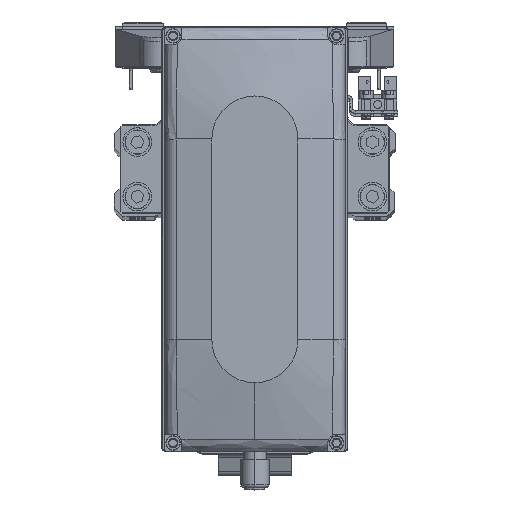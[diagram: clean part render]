
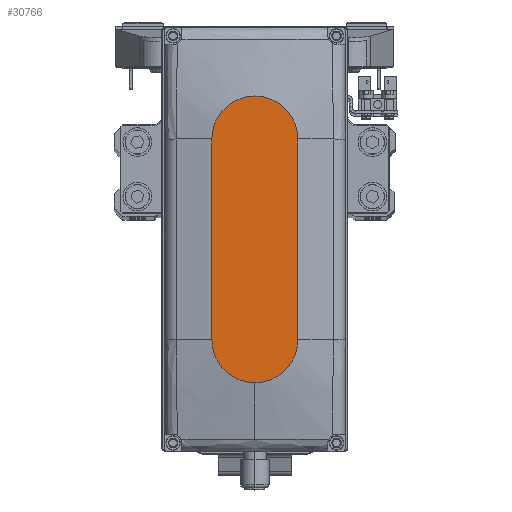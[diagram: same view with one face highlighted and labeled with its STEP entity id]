
A CAD part, top view. The second image highlights one B-rep face of the part: STEP entity #30766.
In plain terms, the highlighted planar face has unit normal (0, 0, 1).
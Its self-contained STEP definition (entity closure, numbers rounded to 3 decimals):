
#3246 = EDGE_CURVE ( 'NONE', #27830, #14980, #12719, .T. ) ;
#3724 = CARTESIAN_POINT ( 'NONE',  ( 0., 0., 35. ) ) ;
#4434 = DIRECTION ( 'NONE',  ( 1., 0., 0. ) ) ;
#4995 = ORIENTED_EDGE ( 'NONE', *, *, #6561, .T. ) ;
#6561 = EDGE_CURVE ( 'NONE', #18724, #30098, #22208, .T. ) ;
#7403 = EDGE_CURVE ( 'NONE', #14980, #18724, #44676, .T. ) ;
#7783 = DIRECTION ( 'NONE',  ( 0., 0., 1. ) ) ;
#8520 = AXIS2_PLACEMENT_3D ( 'NONE', #40916, #8866, #23140 ) ;
#8746 = CARTESIAN_POINT ( 'NONE',  ( -35., -15., 35. ) ) ;
#8866 = DIRECTION ( 'NONE',  ( 0., 0., 1. ) ) ;
#8939 = CARTESIAN_POINT ( 'NONE',  ( 50., 0., 35. ) ) ;
#11325 = AXIS2_PLACEMENT_3D ( 'NONE', #14492, #28738, #42997 ) ;
#12719 = LINE ( 'NONE', #26976, #34454 ) ;
#14492 = CARTESIAN_POINT ( 'NONE',  ( 35., 0., 35. ) ) ;
#14657 = EDGE_CURVE ( 'NONE', #27623, #27830, #31495, .T. ) ;
#14980 = VERTEX_POINT ( 'NONE', #42051 ) ;
#17999 = DIRECTION ( 'NONE',  ( 0., 0., 1. ) ) ;
#18724 = VERTEX_POINT ( 'NONE', #8746 ) ;
#20302 = ORIENTED_EDGE ( 'NONE', *, *, #7403, .T. ) ;
#21485 = FACE_OUTER_BOUND ( 'NONE', #34228, .T. ) ;
#22051 = DIRECTION ( 'NONE',  ( 1., 0., 0. ) ) ;
#22208 = LINE ( 'NONE', #36475, #40133 ) ;
#22596 = EDGE_CURVE ( 'NONE', #30098, #27623, #28679, .T. ) ;
#22805 = AXIS2_PLACEMENT_3D ( 'NONE', #39825, #7783, #22051 ) ;
#22924 = ORIENTED_EDGE ( 'NONE', *, *, #14657, .T. ) ;
#23140 = DIRECTION ( 'NONE',  ( 1., 0., 0. ) ) ;
#23751 = AXIS2_PLACEMENT_3D ( 'NONE', #3724, #17999, #32264 ) ;
#26088 = CARTESIAN_POINT ( 'NONE',  ( 35., -15., 35. ) ) ;
#26976 = CARTESIAN_POINT ( 'NONE',  ( -35., 15., 35. ) ) ;
#27623 = VERTEX_POINT ( 'NONE', #8939 ) ;
#27830 = VERTEX_POINT ( 'NONE', #46076 ) ;
#28679 = CIRCLE ( 'NONE', #8520, 15. ) ;
#28738 = DIRECTION ( 'NONE',  ( 0., 0., 1. ) ) ;
#30098 = VERTEX_POINT ( 'NONE', #26088 ) ;
#30766 = ADVANCED_FACE ( 'NONE', ( #21485 ), #35765, .T. ) ;
#31495 = CIRCLE ( 'NONE', #11325, 15. ) ;
#32264 = DIRECTION ( 'NONE',  ( 1., 0., 0. ) ) ;
#33772 = ORIENTED_EDGE ( 'NONE', *, *, #3246, .T. ) ;
#34228 = EDGE_LOOP ( 'NONE', ( #33772, #20302, #4995, #44459, #22924 ) ) ;
#34454 = VECTOR ( 'NONE', #41246, 1000. ) ;
#35765 = PLANE ( 'NONE',  #23751 ) ;
#36475 = CARTESIAN_POINT ( 'NONE',  ( -35., -15., 35. ) ) ;
#39825 = CARTESIAN_POINT ( 'NONE',  ( -35., 0., 35. ) ) ;
#40133 = VECTOR ( 'NONE', #4434, 1000. ) ;
#40916 = CARTESIAN_POINT ( 'NONE',  ( 35., 0., 35. ) ) ;
#41246 = DIRECTION ( 'NONE',  ( -1., 0., 0. ) ) ;
#42051 = CARTESIAN_POINT ( 'NONE',  ( -35., 15., 35. ) ) ;
#42997 = DIRECTION ( 'NONE',  ( 1., 0., 0. ) ) ;
#44459 = ORIENTED_EDGE ( 'NONE', *, *, #22596, .T. ) ;
#44676 = CIRCLE ( 'NONE', #22805, 15. ) ;
#46076 = CARTESIAN_POINT ( 'NONE',  ( 35., 15., 35. ) ) ;
